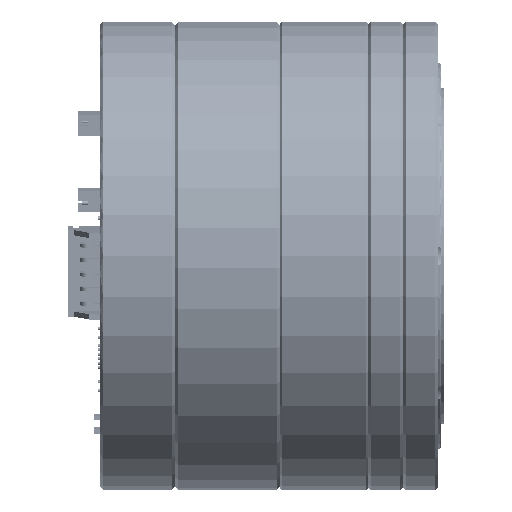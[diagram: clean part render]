
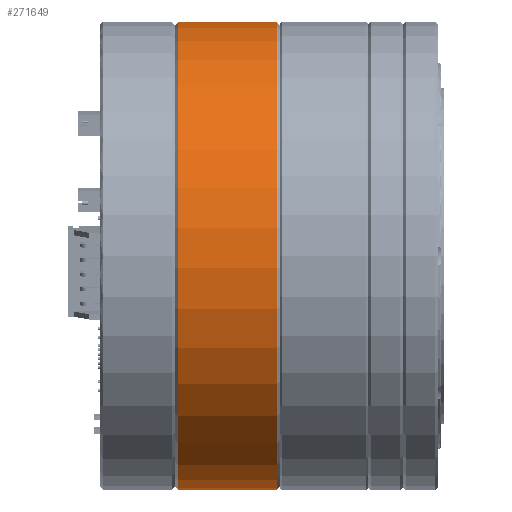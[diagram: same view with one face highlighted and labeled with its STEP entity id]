
A CAD part, front view. The second image highlights one B-rep face of the part: STEP entity #271649.
In plain terms, the highlighted cylindrical face has radius 40 mm (diameter 80 mm), a full revolution.
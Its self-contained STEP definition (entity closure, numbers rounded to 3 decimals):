
#28738=FACE_OUTER_BOUND('',#43692,.T.);
#43692=EDGE_LOOP('',(#216731,#216732,#216733,#216734,#216735,#216736));
#58757=LINE('',#471638,#82607);
#82607=VECTOR('',#344176,40.);
#109226=CIRCLE('',#295412,40.);
#109227=CIRCLE('',#295413,40.);
#109228=CIRCLE('',#295415,40.);
#109229=CIRCLE('',#295416,40.);
#124868=VERTEX_POINT('',#471631);
#124869=VERTEX_POINT('',#471633);
#124870=VERTEX_POINT('',#471637);
#124871=VERTEX_POINT('',#471639);
#157764=EDGE_CURVE('',#124868,#124869,#109226,.T.);
#157765=EDGE_CURVE('',#124869,#124868,#109227,.T.);
#157766=EDGE_CURVE('',#124869,#124870,#58757,.T.);
#157767=EDGE_CURVE('',#124871,#124870,#109228,.T.);
#157768=EDGE_CURVE('',#124870,#124871,#109229,.T.);
#216731=ORIENTED_EDGE('',*,*,#157764,.F.);
#216732=ORIENTED_EDGE('',*,*,#157765,.F.);
#216733=ORIENTED_EDGE('',*,*,#157766,.T.);
#216734=ORIENTED_EDGE('',*,*,#157767,.F.);
#216735=ORIENTED_EDGE('',*,*,#157768,.F.);
#216736=ORIENTED_EDGE('',*,*,#157766,.F.);
#263101=CYLINDRICAL_SURFACE('',#295414,40.);
#271649=ADVANCED_FACE('',(#28738),#263101,.T.);
#295412=AXIS2_PLACEMENT_3D('',#471634,#344170,#344171);
#295413=AXIS2_PLACEMENT_3D('',#471635,#344172,#344173);
#295414=AXIS2_PLACEMENT_3D('',#471636,#344174,#344175);
#295415=AXIS2_PLACEMENT_3D('',#471640,#344177,#344178);
#295416=AXIS2_PLACEMENT_3D('',#471641,#344179,#344180);
#344170=DIRECTION('center_axis',(0.,0.,-1.));
#344171=DIRECTION('ref_axis',(0.,-1.,0.));
#344172=DIRECTION('center_axis',(0.,0.,-1.));
#344173=DIRECTION('ref_axis',(0.,-1.,0.));
#344174=DIRECTION('center_axis',(0.,0.,-1.));
#344175=DIRECTION('ref_axis',(0.,1.,0.));
#344176=DIRECTION('',(0.,0.,1.));
#344177=DIRECTION('center_axis',(0.,0.,1.));
#344178=DIRECTION('ref_axis',(0.,-1.,0.));
#344179=DIRECTION('center_axis',(0.,0.,1.));
#344180=DIRECTION('ref_axis',(0.,-1.,0.));
#471631=CARTESIAN_POINT('',(0.,40.,0.5));
#471633=CARTESIAN_POINT('',(0.,-40.,0.5));
#471634=CARTESIAN_POINT('Origin',(0.,0.,0.5));
#471635=CARTESIAN_POINT('Origin',(0.,0.,0.5));
#471636=CARTESIAN_POINT('Origin',(0.,0.,9.));
#471637=CARTESIAN_POINT('',(0.,-40.,17.5));
#471638=CARTESIAN_POINT('',(0.,-40.,9.));
#471639=CARTESIAN_POINT('',(0.,40.,17.5));
#471640=CARTESIAN_POINT('Origin',(0.,0.,17.5));
#471641=CARTESIAN_POINT('Origin',(0.,0.,17.5));
